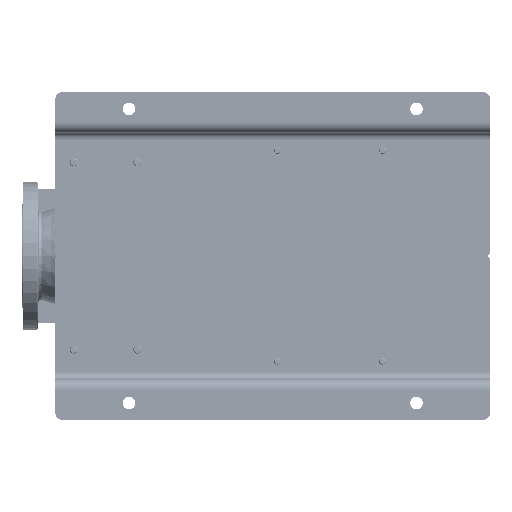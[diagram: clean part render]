
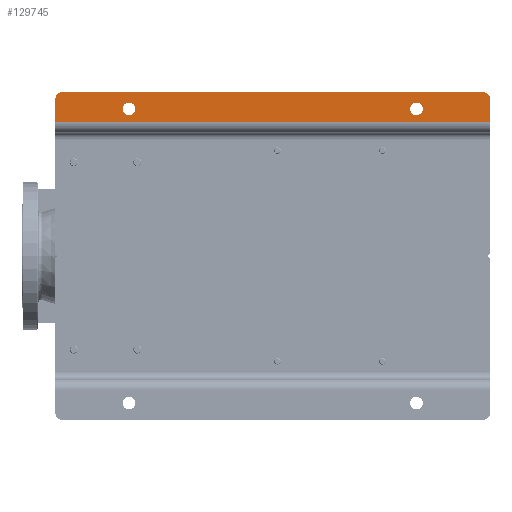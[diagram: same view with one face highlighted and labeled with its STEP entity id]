
A CAD part, front view. The second image highlights one B-rep face of the part: STEP entity #129745.
In plain terms, the highlighted planar face has unit normal (0, -1, 0).
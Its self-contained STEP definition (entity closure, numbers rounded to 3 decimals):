
#95 = AXIS2_PLACEMENT_3D ( 'NONE', #150028, #151138, #166700 ) ;
#6223 = CARTESIAN_POINT ( 'NONE',  ( 480., 0., -650. ) ) ;
#7043 = CIRCLE ( 'NONE', #95, 10. ) ;
#8350 = EDGE_CURVE ( 'NONE', #195404, #174607, #204575, .T. ) ;
#9169 = VECTOR ( 'NONE', #167974, 1000. ) ;
#11877 = LINE ( 'NONE', #27452, #89449 ) ;
#12311 = CARTESIAN_POINT ( 'NONE',  ( 480., 0., -10. ) ) ;
#12852 = FACE_BOUND ( 'NONE', #173868, .T. ) ;
#16508 = CARTESIAN_POINT ( 'NONE',  ( 465., 0., -540. ) ) ;
#17082 = EDGE_CURVE ( 'NONE', #95925, #74840, #7043, .T. ) ;
#27452 = CARTESIAN_POINT ( 'NONE',  ( 490., 0., -650. ) ) ;
#29933 = DIRECTION ( 'NONE',  ( 1., 0., 0. ) ) ;
#32204 = VERTEX_POINT ( 'NONE', #46182 ) ;
#32628 = ORIENTED_EDGE ( 'NONE', *, *, #214422, .T. ) ;
#33796 = AXIS2_PLACEMENT_3D ( 'NONE', #82587, #120178, #86951 ) ;
#37896 = CARTESIAN_POINT ( 'NONE',  ( 465., 0., -540. ) ) ;
#39044 = EDGE_LOOP ( 'NONE', ( #109919, #217238, #170560, #143629, #132336, #32628 ) ) ;
#39254 = CARTESIAN_POINT ( 'NONE',  ( 429., 0., 0. ) ) ;
#42499 = AXIS2_PLACEMENT_3D ( 'NONE', #37896, #138833, #54559 ) ;
#45607 = DIRECTION ( 'NONE',  ( 0., -1., 0. ) ) ;
#46182 = CARTESIAN_POINT ( 'NONE',  ( 474.5, 0., -540. ) ) ;
#51999 = DIRECTION ( 'NONE',  ( 0., 0., -1. ) ) ;
#52877 = ORIENTED_EDGE ( 'NONE', *, *, #61199, .T. ) ;
#54559 = DIRECTION ( 'NONE',  ( 0., 0., -1. ) ) ;
#55077 = DIRECTION ( 'NONE',  ( 0., 0., -1. ) ) ;
#58337 = EDGE_CURVE ( 'NONE', #69440, #78238, #72785, .T. ) ;
#60368 = AXIS2_PLACEMENT_3D ( 'NONE', #67227, #81664, #63921 ) ;
#60447 = AXIS2_PLACEMENT_3D ( 'NONE', #12311, #45607, #164325 ) ;
#61199 = EDGE_CURVE ( 'NONE', #32204, #200245, #74551, .T. ) ;
#63921 = DIRECTION ( 'NONE',  ( 0., 0., -1. ) ) ;
#67227 = CARTESIAN_POINT ( 'NONE',  ( 429., 0., -650. ) ) ;
#69440 = VERTEX_POINT ( 'NONE', #90479 ) ;
#72785 = CIRCLE ( 'NONE', #33796, 9.5 ) ;
#74551 = CIRCLE ( 'NONE', #42499, 9.5 ) ;
#74840 = VERTEX_POINT ( 'NONE', #184202 ) ;
#76018 = VERTEX_POINT ( 'NONE', #101631 ) ;
#78238 = VERTEX_POINT ( 'NONE', #103294 ) ;
#78514 = CIRCLE ( 'NONE', #92576, 9.5 ) ;
#80586 = PLANE ( 'NONE',  #60368 ) ;
#81664 = DIRECTION ( 'NONE',  ( 0., -1., 0. ) ) ;
#82587 = CARTESIAN_POINT ( 'NONE',  ( 465., 0., -110. ) ) ;
#83354 = EDGE_LOOP ( 'NONE', ( #189457, #52877 ) ) ;
#86951 = DIRECTION ( 'NONE',  ( 0., 0., -1. ) ) ;
#89449 = VECTOR ( 'NONE', #131640, 1000. ) ;
#90479 = CARTESIAN_POINT ( 'NONE',  ( 455.5, 0., -110. ) ) ;
#90558 = CARTESIAN_POINT ( 'NONE',  ( 465., 0., -110. ) ) ;
#92576 = AXIS2_PLACEMENT_3D ( 'NONE', #90558, #211476, #55077 ) ;
#95925 = VERTEX_POINT ( 'NONE', #6223 ) ;
#96523 = LINE ( 'NONE', #183066, #190775 ) ;
#100093 = CIRCLE ( 'NONE', #132037, 9.5 ) ;
#101631 = CARTESIAN_POINT ( 'NONE',  ( 490., 0., -10. ) ) ;
#103294 = CARTESIAN_POINT ( 'NONE',  ( 474.5, 0., -110. ) ) ;
#103368 = ORIENTED_EDGE ( 'NONE', *, *, #143318, .T. ) ;
#107673 = VECTOR ( 'NONE', #161258, 1000. ) ;
#109919 = ORIENTED_EDGE ( 'NONE', *, *, #213005, .F. ) ;
#120178 = DIRECTION ( 'NONE',  ( 0., 1., 0. ) ) ;
#127695 = CIRCLE ( 'NONE', #60447, 10. ) ;
#129745 = ADVANCED_FACE ( 'NONE', ( #12852, #219234, #167052 ), #80586, .T. ) ;
#131640 = DIRECTION ( 'NONE',  ( 0., 0., 1. ) ) ;
#132037 = AXIS2_PLACEMENT_3D ( 'NONE', #16508, #170700, #51999 ) ;
#132336 = ORIENTED_EDGE ( 'NONE', *, *, #142333, .T. ) ;
#138833 = DIRECTION ( 'NONE',  ( 0., 1., 0. ) ) ;
#139155 = VERTEX_POINT ( 'NONE', #206565 ) ;
#142333 = EDGE_CURVE ( 'NONE', #74840, #76018, #11877, .T. ) ;
#143318 = EDGE_CURVE ( 'NONE', #78238, #69440, #78514, .T. ) ;
#143629 = ORIENTED_EDGE ( 'NONE', *, *, #17082, .T. ) ;
#150028 = CARTESIAN_POINT ( 'NONE',  ( 480., 0., -640. ) ) ;
#151138 = DIRECTION ( 'NONE',  ( 0., -1., 0. ) ) ;
#158244 = ORIENTED_EDGE ( 'NONE', *, *, #58337, .T. ) ;
#161258 = DIRECTION ( 'NONE',  ( 1., 0., 0. ) ) ;
#164325 = DIRECTION ( 'NONE',  ( 0., 0., -1. ) ) ;
#166700 = DIRECTION ( 'NONE',  ( 0., 0., -1. ) ) ;
#167052 = FACE_OUTER_BOUND ( 'NONE', #39044, .T. ) ;
#167974 = DIRECTION ( 'NONE',  ( 0., 0., -1. ) ) ;
#168503 = EDGE_CURVE ( 'NONE', #174607, #95925, #96523, .T. ) ;
#169078 = CARTESIAN_POINT ( 'NONE',  ( 445., 0., -650. ) ) ;
#169367 = CARTESIAN_POINT ( 'NONE',  ( 445., 0., 0. ) ) ;
#170560 = ORIENTED_EDGE ( 'NONE', *, *, #168503, .T. ) ;
#170700 = DIRECTION ( 'NONE',  ( 0., 1., 0. ) ) ;
#173868 = EDGE_LOOP ( 'NONE', ( #158244, #103368 ) ) ;
#174607 = VERTEX_POINT ( 'NONE', #204059 ) ;
#176821 = LINE ( 'NONE', #39254, #107673 ) ;
#183066 = CARTESIAN_POINT ( 'NONE',  ( 429., 0., -650. ) ) ;
#184202 = CARTESIAN_POINT ( 'NONE',  ( 490., 0., -640. ) ) ;
#189457 = ORIENTED_EDGE ( 'NONE', *, *, #194805, .T. ) ;
#190775 = VECTOR ( 'NONE', #29933, 1000. ) ;
#194805 = EDGE_CURVE ( 'NONE', #200245, #32204, #100093, .T. ) ;
#195404 = VERTEX_POINT ( 'NONE', #169367 ) ;
#200245 = VERTEX_POINT ( 'NONE', #212130 ) ;
#204059 = CARTESIAN_POINT ( 'NONE',  ( 445., 0., -650. ) ) ;
#204575 = LINE ( 'NONE', #169078, #9169 ) ;
#206565 = CARTESIAN_POINT ( 'NONE',  ( 480., 0., 0. ) ) ;
#211476 = DIRECTION ( 'NONE',  ( 0., 1., 0. ) ) ;
#212130 = CARTESIAN_POINT ( 'NONE',  ( 455.5, 0., -540. ) ) ;
#213005 = EDGE_CURVE ( 'NONE', #195404, #139155, #176821, .T. ) ;
#214422 = EDGE_CURVE ( 'NONE', #76018, #139155, #127695, .T. ) ;
#217238 = ORIENTED_EDGE ( 'NONE', *, *, #8350, .T. ) ;
#219234 = FACE_BOUND ( 'NONE', #83354, .T. ) ;
